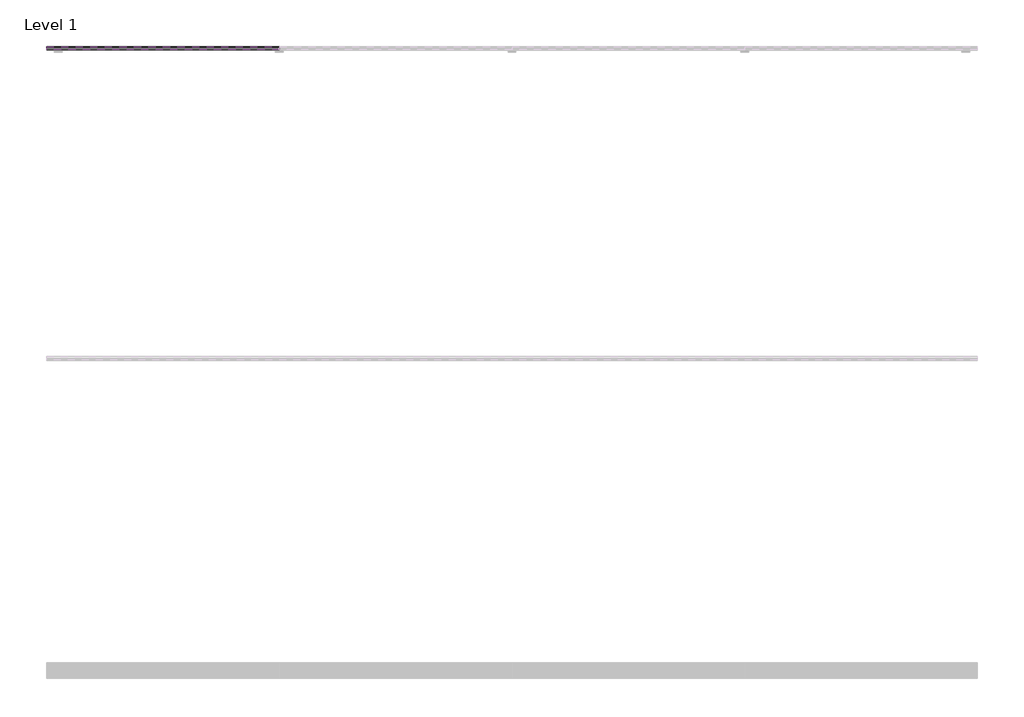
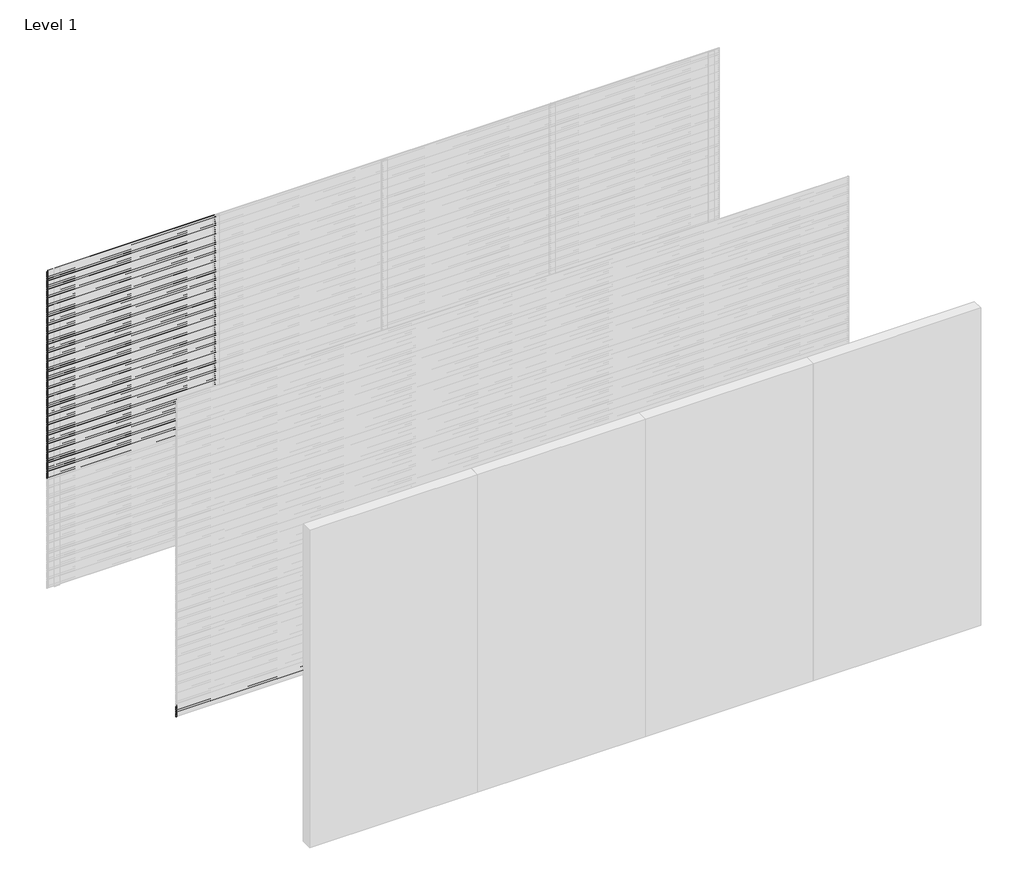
# One storey, part 26 of 31: 103 proxies.
"""IFC4 building model written with IfcOpenShell, lengths in millimetres."""

from ifc_helpers import new_model, si_unit, frame, origin, place, context, project, spatial, polyline, outline, extrude, element, save

model = new_model("IFC4")

# Units and contexts
model_context = context("Model", 3, world=origin())
ifc_project = project(units=[si_unit("LENGTHUNIT", "METRE", prefix="MILLI")], contexts=[model_context])

# Site, building, storey
site = spatial("IfcSite", under=ifc_project)
building = spatial("IfcBuilding", under=site)
storey = spatial("IfcBuildingStorey", under=building, Name="Level 1", Elevation=0.0)

# Proxies
placement = place(None, origin())
element("IfcBuildingElementProxy", 1, Name="Wall Sweeps", at=placement, inside=storey, context=model_context, shape_type="SweptSolid", body=[
    extrude(outline(polyline([(5.0, 3000.0), (5.0, 2988.942893), (24.0, 2973.0), (24.0, 2960.0), (3.0, 2977.6210923), (3.0, 3000.0), (5.0, 3000.0)])), frame((0.0, 0.0, 0.0), z_axis=(1.0, 0.0, 0.0), x_axis=(0.0, 1.0, 0.0)), (0.0, 0.0, 1.0), 1500.0),
])
element("IfcBuildingElementProxy", 2, Name="Wall Sweeps", at=placement, inside=storey, context=model_context, shape_type="SweptSolid", body=[
    extrude(outline(polyline([(5.0, 2980.0), (5.0, 2968.942893), (24.0, 2953.0), (24.0, 2940.0), (3.0, 2957.6210923), (3.0, 2980.0), (5.0, 2980.0)])), frame((0.0, 0.0, 0.0), z_axis=(1.0, 0.0, 0.0), x_axis=(0.0, 1.0, 0.0)), (0.0, 0.0, 1.0), 1500.0),
])
element("IfcBuildingElementProxy", 3, Name="Wall Sweeps", at=placement, inside=storey, context=model_context, shape_type="SweptSolid", body=[
    extrude(outline(polyline([(5.0, 2960.0), (5.0, 2948.942893), (24.0, 2933.0), (24.0, 2920.0), (3.0, 2937.6210923), (3.0, 2960.0), (5.0, 2960.0)])), frame((0.0, 0.0, 0.0), z_axis=(1.0, 0.0, 0.0), x_axis=(0.0, 1.0, 0.0)), (0.0, 0.0, 1.0), 1500.0),
])
element("IfcBuildingElementProxy", 4, Name="Wall Sweeps", at=placement, inside=storey, context=model_context, shape_type="SweptSolid", body=[
    extrude(outline(polyline([(5.0, 2940.0), (5.0, 2928.942893), (24.0, 2913.0), (24.0, 2900.0), (3.0, 2917.6210923), (3.0, 2940.0), (5.0, 2940.0)])), frame((0.0, 0.0, 0.0), z_axis=(1.0, 0.0, 0.0), x_axis=(0.0, 1.0, 0.0)), (0.0, 0.0, 1.0), 1500.0),
])
element("IfcBuildingElementProxy", 5, Name="Wall Sweeps", at=placement, inside=storey, context=model_context, shape_type="SweptSolid", body=[
    extrude(outline(polyline([(5.0, 2920.0), (5.0, 2908.942893), (24.0, 2893.0), (24.0, 2880.0), (3.0, 2897.6210923), (3.0, 2920.0), (5.0, 2920.0)])), frame((0.0, 0.0, 0.0), z_axis=(1.0, 0.0, 0.0), x_axis=(0.0, 1.0, 0.0)), (0.0, 0.0, 1.0), 1500.0),
])
element("IfcBuildingElementProxy", 6, Name="Wall Sweeps", at=placement, inside=storey, context=model_context, shape_type="SweptSolid", body=[
    extrude(outline(polyline([(5.0, 2900.0), (5.0, 2888.942893), (24.0, 2873.0), (24.0, 2860.0), (3.0, 2877.6210923), (3.0, 2900.0), (5.0, 2900.0)])), frame((0.0, 0.0, 0.0), z_axis=(1.0, 0.0, 0.0), x_axis=(0.0, 1.0, 0.0)), (0.0, 0.0, 1.0), 1500.0),
])
element("IfcBuildingElementProxy", 7, Name="Wall Sweeps", at=placement, inside=storey, context=model_context, shape_type="SweptSolid", body=[
    extrude(outline(polyline([(5.0, 2880.0), (5.0, 2868.942893), (24.0, 2853.0), (24.0, 2840.0), (3.0, 2857.6210923), (3.0, 2880.0), (5.0, 2880.0)])), frame((0.0, 0.0, 0.0), z_axis=(1.0, 0.0, 0.0), x_axis=(0.0, 1.0, 0.0)), (0.0, 0.0, 1.0), 1500.0),
])
element("IfcBuildingElementProxy", 8, Name="Wall Sweeps", at=placement, inside=storey, context=model_context, shape_type="SweptSolid", body=[
    extrude(outline(polyline([(5.0, 2860.0), (5.0, 2848.942893), (24.0, 2833.0), (24.0, 2820.0), (3.0, 2837.6210923), (3.0, 2860.0), (5.0, 2860.0)])), frame((0.0, 0.0, 0.0), z_axis=(1.0, 0.0, 0.0), x_axis=(0.0, 1.0, 0.0)), (0.0, 0.0, 1.0), 1500.0),
])
element("IfcBuildingElementProxy", 9, Name="Wall Sweeps", at=placement, inside=storey, context=model_context, shape_type="SweptSolid", body=[
    extrude(outline(polyline([(5.0, 2840.0), (5.0, 2828.942893), (24.0, 2813.0), (24.0, 2800.0), (3.0, 2817.6210923), (3.0, 2840.0), (5.0, 2840.0)])), frame((0.0, 0.0, 0.0), z_axis=(1.0, 0.0, 0.0), x_axis=(0.0, 1.0, 0.0)), (0.0, 0.0, 1.0), 1500.0),
])
element("IfcBuildingElementProxy", 10, Name="Wall Sweeps", at=placement, inside=storey, context=model_context, shape_type="SweptSolid", body=[
    extrude(outline(polyline([(5.0, 2820.0), (5.0, 2808.942893), (24.0, 2793.0), (24.0, 2780.0), (3.0, 2797.6210923), (3.0, 2820.0), (5.0, 2820.0)])), frame((0.0, 0.0, 0.0), z_axis=(1.0, 0.0, 0.0), x_axis=(0.0, 1.0, 0.0)), (0.0, 0.0, 1.0), 1500.0),
])
element("IfcBuildingElementProxy", 11, Name="Wall Sweeps", at=placement, inside=storey, context=model_context, shape_type="SweptSolid", body=[
    extrude(outline(polyline([(5.0, 2800.0), (5.0, 2788.942893), (24.0, 2773.0), (24.0, 2760.0), (3.0, 2777.6210923), (3.0, 2800.0), (5.0, 2800.0)])), frame((0.0, 0.0, 0.0), z_axis=(1.0, 0.0, 0.0), x_axis=(0.0, 1.0, 0.0)), (0.0, 0.0, 1.0), 1500.0),
])
element("IfcBuildingElementProxy", 12, Name="Wall Sweeps", at=placement, inside=storey, context=model_context, shape_type="SweptSolid", body=[
    extrude(outline(polyline([(5.0, 2780.0), (5.0, 2768.942893), (24.0, 2753.0), (24.0, 2740.0), (3.0, 2757.6210923), (3.0, 2780.0), (5.0, 2780.0)])), frame((0.0, 0.0, 0.0), z_axis=(1.0, 0.0, 0.0), x_axis=(0.0, 1.0, 0.0)), (0.0, 0.0, 1.0), 1500.0),
])
element("IfcBuildingElementProxy", 13, Name="Wall Sweeps", at=placement, inside=storey, context=model_context, shape_type="SweptSolid", body=[
    extrude(outline(polyline([(5.0, 2760.0), (5.0, 2748.942893), (24.0, 2733.0), (24.0, 2720.0), (3.0, 2737.6210923), (3.0, 2760.0), (5.0, 2760.0)])), frame((0.0, 0.0, 0.0), z_axis=(1.0, 0.0, 0.0), x_axis=(0.0, 1.0, 0.0)), (0.0, 0.0, 1.0), 1500.0),
])
element("IfcBuildingElementProxy", 14, Name="Wall Sweeps", at=placement, inside=storey, context=model_context, shape_type="SweptSolid", body=[
    extrude(outline(polyline([(5.0, 2740.0), (5.0, 2728.942893), (24.0, 2713.0), (24.0, 2700.0), (3.0, 2717.6210923), (3.0, 2740.0), (5.0, 2740.0)])), frame((0.0, 0.0, 0.0), z_axis=(1.0, 0.0, 0.0), x_axis=(0.0, 1.0, 0.0)), (0.0, 0.0, 1.0), 1500.0),
])
element("IfcBuildingElementProxy", 15, Name="Wall Sweeps", at=placement, inside=storey, context=model_context, shape_type="SweptSolid", body=[
    extrude(outline(polyline([(5.0, 2720.0), (5.0, 2708.942893), (24.0, 2693.0), (24.0, 2680.0), (3.0, 2697.6210923), (3.0, 2720.0), (5.0, 2720.0)])), frame((0.0, 0.0, 0.0), z_axis=(1.0, 0.0, 0.0), x_axis=(0.0, 1.0, 0.0)), (0.0, 0.0, 1.0), 1500.0),
])
element("IfcBuildingElementProxy", 16, Name="Wall Sweeps", at=placement, inside=storey, context=model_context, shape_type="SweptSolid", body=[
    extrude(outline(polyline([(5.0, 2700.0), (5.0, 2688.942893), (24.0, 2673.0), (24.0, 2660.0), (3.0, 2677.6210923), (3.0, 2700.0), (5.0, 2700.0)])), frame((0.0, 0.0, 0.0), z_axis=(1.0, 0.0, 0.0), x_axis=(0.0, 1.0, 0.0)), (0.0, 0.0, 1.0), 1500.0),
])
element("IfcBuildingElementProxy", 17, Name="Wall Sweeps", at=placement, inside=storey, context=model_context, shape_type="SweptSolid", body=[
    extrude(outline(polyline([(5.0, 2680.0), (5.0, 2668.942893), (24.0, 2653.0), (24.0, 2640.0), (3.0, 2657.6210923), (3.0, 2680.0), (5.0, 2680.0)])), frame((0.0, 0.0, 0.0), z_axis=(1.0, 0.0, 0.0), x_axis=(0.0, 1.0, 0.0)), (0.0, 0.0, 1.0), 1500.0),
])
element("IfcBuildingElementProxy", 18, Name="Wall Sweeps", at=placement, inside=storey, context=model_context, shape_type="SweptSolid", body=[
    extrude(outline(polyline([(5.0, 2660.0), (5.0, 2648.942893), (24.0, 2633.0), (24.0, 2620.0), (3.0, 2637.6210923), (3.0, 2660.0), (5.0, 2660.0)])), frame((0.0, 0.0, 0.0), z_axis=(1.0, 0.0, 0.0), x_axis=(0.0, 1.0, 0.0)), (0.0, 0.0, 1.0), 1500.0),
])
element("IfcBuildingElementProxy", 19, Name="Wall Sweeps", at=placement, inside=storey, context=model_context, shape_type="SweptSolid", body=[
    extrude(outline(polyline([(5.0, 2640.0), (5.0, 2628.942893), (24.0, 2613.0), (24.0, 2600.0), (3.0, 2617.6210923), (3.0, 2640.0), (5.0, 2640.0)])), frame((0.0, 0.0, 0.0), z_axis=(1.0, 0.0, 0.0), x_axis=(0.0, 1.0, 0.0)), (0.0, 0.0, 1.0), 1500.0),
])
element("IfcBuildingElementProxy", 20, Name="Wall Sweeps", at=placement, inside=storey, context=model_context, shape_type="SweptSolid", body=[
    extrude(outline(polyline([(5.0, 2620.0), (5.0, 2608.942893), (24.0, 2593.0), (24.0, 2580.0), (3.0, 2597.6210923), (3.0, 2620.0), (5.0, 2620.0)])), frame((0.0, 0.0, 0.0), z_axis=(1.0, 0.0, 0.0), x_axis=(0.0, 1.0, 0.0)), (0.0, 0.0, 1.0), 1500.0),
])
element("IfcBuildingElementProxy", 21, Name="Wall Sweeps", at=placement, inside=storey, context=model_context, shape_type="SweptSolid", body=[
    extrude(outline(polyline([(5.0, 2600.0), (5.0, 2588.942893), (24.0, 2573.0), (24.0, 2560.0), (3.0, 2577.6210923), (3.0, 2600.0), (5.0, 2600.0)])), frame((0.0, 0.0, 0.0), z_axis=(1.0, 0.0, 0.0), x_axis=(0.0, 1.0, 0.0)), (0.0, 0.0, 1.0), 1500.0),
])
element("IfcBuildingElementProxy", 22, Name="Wall Sweeps", at=placement, inside=storey, context=model_context, shape_type="SweptSolid", body=[
    extrude(outline(polyline([(5.0, 2580.0), (5.0, 2568.942893), (24.0, 2553.0), (24.0, 2540.0), (3.0, 2557.6210923), (3.0, 2580.0), (5.0, 2580.0)])), frame((0.0, 0.0, 0.0), z_axis=(1.0, 0.0, 0.0), x_axis=(0.0, 1.0, 0.0)), (0.0, 0.0, 1.0), 1500.0),
])
element("IfcBuildingElementProxy", 23, Name="Wall Sweeps", at=placement, inside=storey, context=model_context, shape_type="SweptSolid", body=[
    extrude(outline(polyline([(5.0, 2560.0), (5.0, 2548.942893), (24.0, 2533.0), (24.0, 2520.0), (3.0, 2537.6210923), (3.0, 2560.0), (5.0, 2560.0)])), frame((0.0, 0.0, 0.0), z_axis=(1.0, 0.0, 0.0), x_axis=(0.0, 1.0, 0.0)), (0.0, 0.0, 1.0), 1500.0),
])
element("IfcBuildingElementProxy", 24, Name="Wall Sweeps", at=placement, inside=storey, context=model_context, shape_type="SweptSolid", body=[
    extrude(outline(polyline([(5.0, 2540.0), (5.0, 2528.942893), (24.0, 2513.0), (24.0, 2500.0), (3.0, 2517.6210923), (3.0, 2540.0), (5.0, 2540.0)])), frame((0.0, 0.0, 0.0), z_axis=(1.0, 0.0, 0.0), x_axis=(0.0, 1.0, 0.0)), (0.0, 0.0, 1.0), 1500.0),
])
element("IfcBuildingElementProxy", 25, Name="Wall Sweeps", at=placement, inside=storey, context=model_context, shape_type="SweptSolid", body=[
    extrude(outline(polyline([(5.0, 2520.0), (5.0, 2508.942893), (24.0, 2493.0), (24.0, 2480.0), (3.0, 2497.6210923), (3.0, 2520.0), (5.0, 2520.0)])), frame((0.0, 0.0, 0.0), z_axis=(1.0, 0.0, 0.0), x_axis=(0.0, 1.0, 0.0)), (0.0, 0.0, 1.0), 1500.0),
])
element("IfcBuildingElementProxy", 26, Name="Wall Sweeps", at=placement, inside=storey, context=model_context, shape_type="SweptSolid", body=[
    extrude(outline(polyline([(5.0, 2500.0), (5.0, 2488.942893), (24.0, 2473.0), (24.0, 2460.0), (3.0, 2477.6210923), (3.0, 2500.0), (5.0, 2500.0)])), frame((0.0, 0.0, 0.0), z_axis=(1.0, 0.0, 0.0), x_axis=(0.0, 1.0, 0.0)), (0.0, 0.0, 1.0), 1500.0),
])
element("IfcBuildingElementProxy", 27, Name="Wall Sweeps", at=placement, inside=storey, context=model_context, shape_type="SweptSolid", body=[
    extrude(outline(polyline([(5.0, 2480.0), (5.0, 2468.942893), (24.0, 2453.0), (24.0, 2440.0), (3.0, 2457.6210923), (3.0, 2480.0), (5.0, 2480.0)])), frame((0.0, 0.0, 0.0), z_axis=(1.0, 0.0, 0.0), x_axis=(0.0, 1.0, 0.0)), (0.0, 0.0, 1.0), 1500.0),
])
element("IfcBuildingElementProxy", 28, Name="Wall Sweeps", at=placement, inside=storey, context=model_context, shape_type="SweptSolid", body=[
    extrude(outline(polyline([(5.0, 2460.0), (5.0, 2448.942893), (24.0, 2433.0), (24.0, 2420.0), (3.0, 2437.6210923), (3.0, 2460.0), (5.0, 2460.0)])), frame((0.0, 0.0, 0.0), z_axis=(1.0, 0.0, 0.0), x_axis=(0.0, 1.0, 0.0)), (0.0, 0.0, 1.0), 1500.0),
])
element("IfcBuildingElementProxy", 29, Name="Wall Sweeps", at=placement, inside=storey, context=model_context, shape_type="SweptSolid", body=[
    extrude(outline(polyline([(5.0, 2440.0), (5.0, 2428.942893), (24.0, 2413.0), (24.0, 2400.0), (3.0, 2417.6210923), (3.0, 2440.0), (5.0, 2440.0)])), frame((0.0, 0.0, 0.0), z_axis=(1.0, 0.0, 0.0), x_axis=(0.0, 1.0, 0.0)), (0.0, 0.0, 1.0), 1500.0),
])
element("IfcBuildingElementProxy", 30, Name="Wall Sweeps", at=placement, inside=storey, context=model_context, shape_type="SweptSolid", body=[
    extrude(outline(polyline([(5.0, 2420.0), (5.0, 2408.942893), (24.0, 2393.0), (24.0, 2380.0), (3.0, 2397.6210923), (3.0, 2420.0), (5.0, 2420.0)])), frame((0.0, 0.0, 0.0), z_axis=(1.0, 0.0, 0.0), x_axis=(0.0, 1.0, 0.0)), (0.0, 0.0, 1.0), 1500.0),
])
element("IfcBuildingElementProxy", 31, Name="Wall Sweeps", at=placement, inside=storey, context=model_context, shape_type="SweptSolid", body=[
    extrude(outline(polyline([(5.0, 2400.0), (5.0, 2388.942893), (24.0, 2373.0), (24.0, 2360.0), (3.0, 2377.6210923), (3.0, 2400.0), (5.0, 2400.0)])), frame((0.0, 0.0, 0.0), z_axis=(1.0, 0.0, 0.0), x_axis=(0.0, 1.0, 0.0)), (0.0, 0.0, 1.0), 1500.0),
])
element("IfcBuildingElementProxy", 32, Name="Wall Sweeps", at=placement, inside=storey, context=model_context, shape_type="SweptSolid", body=[
    extrude(outline(polyline([(5.0, 2380.0), (5.0, 2368.942893), (24.0, 2353.0), (24.0, 2340.0), (3.0, 2357.6210923), (3.0, 2380.0), (5.0, 2380.0)])), frame((0.0, 0.0, 0.0), z_axis=(1.0, 0.0, 0.0), x_axis=(0.0, 1.0, 0.0)), (0.0, 0.0, 1.0), 1500.0),
])
element("IfcBuildingElementProxy", 33, Name="Wall Sweeps", at=placement, inside=storey, context=model_context, shape_type="SweptSolid", body=[
    extrude(outline(polyline([(5.0, 2360.0), (5.0, 2348.942893), (24.0, 2333.0), (24.0, 2320.0), (3.0, 2337.6210923), (3.0, 2360.0), (5.0, 2360.0)])), frame((0.0, 0.0, 0.0), z_axis=(1.0, 0.0, 0.0), x_axis=(0.0, 1.0, 0.0)), (0.0, 0.0, 1.0), 1500.0),
])
element("IfcBuildingElementProxy", 34, Name="Wall Sweeps", at=placement, inside=storey, context=model_context, shape_type="SweptSolid", body=[
    extrude(outline(polyline([(5.0, 2340.0), (5.0, 2328.942893), (24.0, 2313.0), (24.0, 2300.0), (3.0, 2317.6210923), (3.0, 2340.0), (5.0, 2340.0)])), frame((0.0, 0.0, 0.0), z_axis=(1.0, 0.0, 0.0), x_axis=(0.0, 1.0, 0.0)), (0.0, 0.0, 1.0), 1500.0),
])
element("IfcBuildingElementProxy", 35, Name="Wall Sweeps", at=placement, inside=storey, context=model_context, shape_type="SweptSolid", body=[
    extrude(outline(polyline([(5.0, 2320.0), (5.0, 2308.942893), (24.0, 2293.0), (24.0, 2280.0), (3.0, 2297.6210923), (3.0, 2320.0), (5.0, 2320.0)])), frame((0.0, 0.0, 0.0), z_axis=(1.0, 0.0, 0.0), x_axis=(0.0, 1.0, 0.0)), (0.0, 0.0, 1.0), 1500.0),
])
element("IfcBuildingElementProxy", 36, Name="Wall Sweeps", at=placement, inside=storey, context=model_context, shape_type="SweptSolid", body=[
    extrude(outline(polyline([(5.0, 2300.0), (5.0, 2288.942893), (24.0, 2273.0), (24.0, 2260.0), (3.0, 2277.6210923), (3.0, 2300.0), (5.0, 2300.0)])), frame((0.0, 0.0, 0.0), z_axis=(1.0, 0.0, 0.0), x_axis=(0.0, 1.0, 0.0)), (0.0, 0.0, 1.0), 1500.0),
])
element("IfcBuildingElementProxy", 37, Name="Wall Sweeps", at=placement, inside=storey, context=model_context, shape_type="SweptSolid", body=[
    extrude(outline(polyline([(5.0, 2280.0), (5.0, 2268.942893), (24.0, 2253.0), (24.0, 2240.0), (3.0, 2257.6210923), (3.0, 2280.0), (5.0, 2280.0)])), frame((0.0, 0.0, 0.0), z_axis=(1.0, 0.0, 0.0), x_axis=(0.0, 1.0, 0.0)), (0.0, 0.0, 1.0), 1500.0),
])
element("IfcBuildingElementProxy", 38, Name="Wall Sweeps", at=placement, inside=storey, context=model_context, shape_type="SweptSolid", body=[
    extrude(outline(polyline([(5.0, 2260.0), (5.0, 2248.942893), (24.0, 2233.0), (24.0, 2220.0), (3.0, 2237.6210923), (3.0, 2260.0), (5.0, 2260.0)])), frame((0.0, 0.0, 0.0), z_axis=(1.0, 0.0, 0.0), x_axis=(0.0, 1.0, 0.0)), (0.0, 0.0, 1.0), 1500.0),
])
element("IfcBuildingElementProxy", 39, Name="Wall Sweeps", at=placement, inside=storey, context=model_context, shape_type="SweptSolid", body=[
    extrude(outline(polyline([(5.0, 2240.0), (5.0, 2228.942893), (24.0, 2213.0), (24.0, 2200.0), (3.0, 2217.6210923), (3.0, 2240.0), (5.0, 2240.0)])), frame((0.0, 0.0, 0.0), z_axis=(1.0, 0.0, 0.0), x_axis=(0.0, 1.0, 0.0)), (0.0, 0.0, 1.0), 1500.0),
])
element("IfcBuildingElementProxy", 40, Name="Wall Sweeps", at=placement, inside=storey, context=model_context, shape_type="SweptSolid", body=[
    extrude(outline(polyline([(5.0, 2220.0), (5.0, 2208.942893), (24.0, 2193.0), (24.0, 2180.0), (3.0, 2197.6210923), (3.0, 2220.0), (5.0, 2220.0)])), frame((0.0, 0.0, 0.0), z_axis=(1.0, 0.0, 0.0), x_axis=(0.0, 1.0, 0.0)), (0.0, 0.0, 1.0), 1500.0),
])
element("IfcBuildingElementProxy", 41, Name="Wall Sweeps", at=placement, inside=storey, context=model_context, shape_type="SweptSolid", body=[
    extrude(outline(polyline([(5.0, 2200.0), (5.0, 2188.942893), (24.0, 2173.0), (24.0, 2160.0), (3.0, 2177.6210923), (3.0, 2200.0), (5.0, 2200.0)])), frame((0.0, 0.0, 0.0), z_axis=(1.0, 0.0, 0.0), x_axis=(0.0, 1.0, 0.0)), (0.0, 0.0, 1.0), 1500.0),
])
element("IfcBuildingElementProxy", 42, Name="Wall Sweeps", at=placement, inside=storey, context=model_context, shape_type="SweptSolid", body=[
    extrude(outline(polyline([(5.0, 2180.0), (5.0, 2168.942893), (24.0, 2153.0), (24.0, 2140.0), (3.0, 2157.6210923), (3.0, 2180.0), (5.0, 2180.0)])), frame((0.0, 0.0, 0.0), z_axis=(1.0, 0.0, 0.0), x_axis=(0.0, 1.0, 0.0)), (0.0, 0.0, 1.0), 1500.0),
])
element("IfcBuildingElementProxy", 43, Name="Wall Sweeps", at=placement, inside=storey, context=model_context, shape_type="SweptSolid", body=[
    extrude(outline(polyline([(5.0, 2160.0), (5.0, 2148.942893), (24.0, 2133.0), (24.0, 2120.0), (3.0, 2137.6210923), (3.0, 2160.0), (5.0, 2160.0)])), frame((0.0, 0.0, 0.0), z_axis=(1.0, 0.0, 0.0), x_axis=(0.0, 1.0, 0.0)), (0.0, 0.0, 1.0), 1500.0),
])
element("IfcBuildingElementProxy", 44, Name="Wall Sweeps", at=placement, inside=storey, context=model_context, shape_type="SweptSolid", body=[
    extrude(outline(polyline([(5.0, 2140.0), (5.0, 2128.942893), (24.0, 2113.0), (24.0, 2100.0), (3.0, 2117.6210923), (3.0, 2140.0), (5.0, 2140.0)])), frame((0.0, 0.0, 0.0), z_axis=(1.0, 0.0, 0.0), x_axis=(0.0, 1.0, 0.0)), (0.0, 0.0, 1.0), 1500.0),
])
element("IfcBuildingElementProxy", 45, Name="Wall Sweeps", at=placement, inside=storey, context=model_context, shape_type="SweptSolid", body=[
    extrude(outline(polyline([(5.0, 2120.0), (5.0, 2108.942893), (24.0, 2093.0), (24.0, 2080.0), (3.0, 2097.6210923), (3.0, 2120.0), (5.0, 2120.0)])), frame((0.0, 0.0, 0.0), z_axis=(1.0, 0.0, 0.0), x_axis=(0.0, 1.0, 0.0)), (0.0, 0.0, 1.0), 1500.0),
])
element("IfcBuildingElementProxy", 46, Name="Wall Sweeps", at=placement, inside=storey, context=model_context, shape_type="SweptSolid", body=[
    extrude(outline(polyline([(5.0, 2100.0), (5.0, 2088.942893), (24.0, 2073.0), (24.0, 2060.0), (3.0, 2077.6210923), (3.0, 2100.0), (5.0, 2100.0)])), frame((0.0, 0.0, 0.0), z_axis=(1.0, 0.0, 0.0), x_axis=(0.0, 1.0, 0.0)), (0.0, 0.0, 1.0), 1500.0),
])
element("IfcBuildingElementProxy", 47, Name="Wall Sweeps", at=placement, inside=storey, context=model_context, shape_type="SweptSolid", body=[
    extrude(outline(polyline([(5.0, 2080.0), (5.0, 2068.942893), (24.0, 2053.0), (24.0, 2040.0), (3.0, 2057.6210923), (3.0, 2080.0), (5.0, 2080.0)])), frame((0.0, 0.0, 0.0), z_axis=(1.0, 0.0, 0.0), x_axis=(0.0, 1.0, 0.0)), (0.0, 0.0, 1.0), 1500.0),
])
element("IfcBuildingElementProxy", 48, Name="Wall Sweeps", at=placement, inside=storey, context=model_context, shape_type="SweptSolid", body=[
    extrude(outline(polyline([(5.0, 2060.0), (5.0, 2048.942893), (24.0, 2033.0), (24.0, 2020.0), (3.0, 2037.6210923), (3.0, 2060.0), (5.0, 2060.0)])), frame((0.0, 0.0, 0.0), z_axis=(1.0, 0.0, 0.0), x_axis=(0.0, 1.0, 0.0)), (0.0, 0.0, 1.0), 1500.0),
])
element("IfcBuildingElementProxy", 49, Name="Wall Sweeps", at=placement, inside=storey, context=model_context, shape_type="SweptSolid", body=[
    extrude(outline(polyline([(5.0, 2040.0), (5.0, 2028.942893), (24.0, 2013.0), (24.0, 2000.0), (3.0, 2017.6210923), (3.0, 2040.0), (5.0, 2040.0)])), frame((0.0, 0.0, 0.0), z_axis=(1.0, 0.0, 0.0), x_axis=(0.0, 1.0, 0.0)), (0.0, 0.0, 1.0), 1500.0),
])
element("IfcBuildingElementProxy", 50, Name="Wall Sweeps", at=placement, inside=storey, context=model_context, shape_type="SweptSolid", body=[
    extrude(outline(polyline([(5.0, 2020.0), (5.0, 2008.942893), (24.0, 1993.0), (24.0, 1980.0), (3.0, 1997.6210923), (3.0, 2020.0), (5.0, 2020.0)])), frame((0.0, 0.0, 0.0), z_axis=(1.0, 0.0, 0.0), x_axis=(0.0, 1.0, 0.0)), (0.0, 0.0, 1.0), 1500.0),
])
element("IfcBuildingElementProxy", 51, Name="Wall Sweeps", at=placement, inside=storey, context=model_context, shape_type="SweptSolid", body=[
    extrude(outline(polyline([(5.0, 2000.0), (5.0, 1988.942893), (24.0, 1973.0), (24.0, 1960.0), (3.0, 1977.6210923), (3.0, 2000.0), (5.0, 2000.0)])), frame((0.0, 0.0, 0.0), z_axis=(1.0, 0.0, 0.0), x_axis=(0.0, 1.0, 0.0)), (0.0, 0.0, 1.0), 1500.0),
])
element("IfcBuildingElementProxy", 52, Name="Wall Sweeps", at=placement, inside=storey, context=model_context, shape_type="SweptSolid", body=[
    extrude(outline(polyline([(5.0, 1980.0), (5.0, 1968.942893), (24.0, 1953.0), (24.0, 1940.0), (3.0, 1957.6210923), (3.0, 1980.0), (5.0, 1980.0)])), frame((0.0, 0.0, 0.0), z_axis=(1.0, 0.0, 0.0), x_axis=(0.0, 1.0, 0.0)), (0.0, 0.0, 1.0), 1500.0),
])
element("IfcBuildingElementProxy", 53, Name="Wall Sweeps", at=placement, inside=storey, context=model_context, shape_type="SweptSolid", body=[
    extrude(outline(polyline([(5.0, 1960.0), (5.0, 1948.942893), (24.0, 1933.0), (24.0, 1920.0), (3.0, 1937.6210923), (3.0, 1960.0), (5.0, 1960.0)])), frame((0.0, 0.0, 0.0), z_axis=(1.0, 0.0, 0.0), x_axis=(0.0, 1.0, 0.0)), (0.0, 0.0, 1.0), 1500.0),
])
element("IfcBuildingElementProxy", 54, Name="Wall Sweeps", at=placement, inside=storey, context=model_context, shape_type="SweptSolid", body=[
    extrude(outline(polyline([(5.0, 1940.0), (5.0, 1928.942893), (24.0, 1913.0), (24.0, 1900.0), (3.0, 1917.6210923), (3.0, 1940.0), (5.0, 1940.0)])), frame((0.0, 0.0, 0.0), z_axis=(1.0, 0.0, 0.0), x_axis=(0.0, 1.0, 0.0)), (0.0, 0.0, 1.0), 1500.0),
])
element("IfcBuildingElementProxy", 55, Name="Wall Sweeps", at=placement, inside=storey, context=model_context, shape_type="SweptSolid", body=[
    extrude(outline(polyline([(5.0, 1920.0), (5.0, 1908.942893), (24.0, 1893.0), (24.0, 1880.0), (3.0, 1897.6210923), (3.0, 1920.0), (5.0, 1920.0)])), frame((0.0, 0.0, 0.0), z_axis=(1.0, 0.0, 0.0), x_axis=(0.0, 1.0, 0.0)), (0.0, 0.0, 1.0), 1500.0),
])
element("IfcBuildingElementProxy", 56, Name="Wall Sweeps", at=placement, inside=storey, context=model_context, shape_type="SweptSolid", body=[
    extrude(outline(polyline([(5.0, 1900.0), (5.0, 1888.942893), (24.0, 1873.0), (24.0, 1860.0), (3.0, 1877.6210923), (3.0, 1900.0), (5.0, 1900.0)])), frame((0.0, 0.0, 0.0), z_axis=(1.0, 0.0, 0.0), x_axis=(0.0, 1.0, 0.0)), (0.0, 0.0, 1.0), 1500.0),
])
element("IfcBuildingElementProxy", 57, Name="Wall Sweeps", at=placement, inside=storey, context=model_context, shape_type="SweptSolid", body=[
    extrude(outline(polyline([(5.0, 1880.0), (5.0, 1868.942893), (24.0, 1853.0), (24.0, 1840.0), (3.0, 1857.6210923), (3.0, 1880.0), (5.0, 1880.0)])), frame((0.0, 0.0, 0.0), z_axis=(1.0, 0.0, 0.0), x_axis=(0.0, 1.0, 0.0)), (0.0, 0.0, 1.0), 1500.0),
])
element("IfcBuildingElementProxy", 58, Name="Wall Sweeps", at=placement, inside=storey, context=model_context, shape_type="SweptSolid", body=[
    extrude(outline(polyline([(5.0, 1860.0), (5.0, 1848.942893), (24.0, 1833.0), (24.0, 1820.0), (3.0, 1837.6210923), (3.0, 1860.0), (5.0, 1860.0)])), frame((0.0, 0.0, 0.0), z_axis=(1.0, 0.0, 0.0), x_axis=(0.0, 1.0, 0.0)), (0.0, 0.0, 1.0), 1500.0),
])
element("IfcBuildingElementProxy", 59, Name="Wall Sweeps", at=placement, inside=storey, context=model_context, shape_type="SweptSolid", body=[
    extrude(outline(polyline([(5.0, 1840.0), (5.0, 1828.942893), (24.0, 1813.0), (24.0, 1800.0), (3.0, 1817.6210923), (3.0, 1840.0), (5.0, 1840.0)])), frame((0.0, 0.0, 0.0), z_axis=(1.0, 0.0, 0.0), x_axis=(0.0, 1.0, 0.0)), (0.0, 0.0, 1.0), 1500.0),
])
element("IfcBuildingElementProxy", 60, Name="Wall Sweeps", at=placement, inside=storey, context=model_context, shape_type="SweptSolid", body=[
    extrude(outline(polyline([(5.0, 1820.0), (5.0, 1808.942893), (24.0, 1793.0), (24.0, 1780.0), (3.0, 1797.6210923), (3.0, 1820.0), (5.0, 1820.0)])), frame((0.0, 0.0, 0.0), z_axis=(1.0, 0.0, 0.0), x_axis=(0.0, 1.0, 0.0)), (0.0, 0.0, 1.0), 1500.0),
])
element("IfcBuildingElementProxy", 61, Name="Wall Sweeps", at=placement, inside=storey, context=model_context, shape_type="SweptSolid", body=[
    extrude(outline(polyline([(5.0, 1800.0), (5.0, 1788.942893), (24.0, 1773.0), (24.0, 1760.0), (3.0, 1777.6210923), (3.0, 1800.0), (5.0, 1800.0)])), frame((0.0, 0.0, 0.0), z_axis=(1.0, 0.0, 0.0), x_axis=(0.0, 1.0, 0.0)), (0.0, 0.0, 1.0), 1500.0),
])
element("IfcBuildingElementProxy", 62, Name="Wall Sweeps", at=placement, inside=storey, context=model_context, shape_type="SweptSolid", body=[
    extrude(outline(polyline([(5.0, 1780.0), (5.0, 1768.942893), (24.0, 1753.0), (24.0, 1740.0), (3.0, 1757.6210923), (3.0, 1780.0), (5.0, 1780.0)])), frame((0.0, 0.0, 0.0), z_axis=(1.0, 0.0, 0.0), x_axis=(0.0, 1.0, 0.0)), (0.0, 0.0, 1.0), 1500.0),
])
element("IfcBuildingElementProxy", 63, Name="Wall Sweeps", at=placement, inside=storey, context=model_context, shape_type="SweptSolid", body=[
    extrude(outline(polyline([(5.0, 1760.0), (5.0, 1748.942893), (24.0, 1733.0), (24.0, 1720.0), (3.0, 1737.6210923), (3.0, 1760.0), (5.0, 1760.0)])), frame((0.0, 0.0, 0.0), z_axis=(1.0, 0.0, 0.0), x_axis=(0.0, 1.0, 0.0)), (0.0, 0.0, 1.0), 1500.0),
])
element("IfcBuildingElementProxy", 64, Name="Wall Sweeps", at=placement, inside=storey, context=model_context, shape_type="SweptSolid", body=[
    extrude(outline(polyline([(5.0, 1740.0), (5.0, 1728.942893), (24.0, 1713.0), (24.0, 1700.0), (3.0, 1717.6210923), (3.0, 1740.0), (5.0, 1740.0)])), frame((0.0, 0.0, 0.0), z_axis=(1.0, 0.0, 0.0), x_axis=(0.0, 1.0, 0.0)), (0.0, 0.0, 1.0), 1500.0),
])
element("IfcBuildingElementProxy", 65, Name="Wall Sweeps", at=placement, inside=storey, context=model_context, shape_type="SweptSolid", body=[
    extrude(outline(polyline([(5.0, 1720.0), (5.0, 1708.942893), (24.0, 1693.0), (24.0, 1680.0), (3.0, 1697.6210923), (3.0, 1720.0), (5.0, 1720.0)])), frame((0.0, 0.0, 0.0), z_axis=(1.0, 0.0, 0.0), x_axis=(0.0, 1.0, 0.0)), (0.0, 0.0, 1.0), 1500.0),
])
element("IfcBuildingElementProxy", 66, Name="Wall Sweeps", at=placement, inside=storey, context=model_context, shape_type="SweptSolid", body=[
    extrude(outline(polyline([(5.0, 1700.0), (5.0, 1688.942893), (24.0, 1673.0), (24.0, 1660.0), (3.0, 1677.6210923), (3.0, 1700.0), (5.0, 1700.0)])), frame((0.0, 0.0, 0.0), z_axis=(1.0, 0.0, 0.0), x_axis=(0.0, 1.0, 0.0)), (0.0, 0.0, 1.0), 1500.0),
])
element("IfcBuildingElementProxy", 67, Name="Wall Sweeps", at=placement, inside=storey, context=model_context, shape_type="SweptSolid", body=[
    extrude(outline(polyline([(5.0, 1680.0), (5.0, 1668.942893), (24.0, 1653.0), (24.0, 1640.0), (3.0, 1657.6210923), (3.0, 1680.0), (5.0, 1680.0)])), frame((0.0, 0.0, 0.0), z_axis=(1.0, 0.0, 0.0), x_axis=(0.0, 1.0, 0.0)), (0.0, 0.0, 1.0), 1500.0),
])
element("IfcBuildingElementProxy", 68, Name="Wall Sweeps", at=placement, inside=storey, context=model_context, shape_type="SweptSolid", body=[
    extrude(outline(polyline([(5.0, 1660.0), (5.0, 1648.942893), (24.0, 1633.0), (24.0, 1620.0), (3.0, 1637.6210923), (3.0, 1660.0), (5.0, 1660.0)])), frame((0.0, 0.0, 0.0), z_axis=(1.0, 0.0, 0.0), x_axis=(0.0, 1.0, 0.0)), (0.0, 0.0, 1.0), 1500.0),
])
element("IfcBuildingElementProxy", 69, Name="Wall Sweeps", at=placement, inside=storey, context=model_context, shape_type="SweptSolid", body=[
    extrude(outline(polyline([(5.0, 1640.0), (5.0, 1628.942893), (24.0, 1613.0), (24.0, 1600.0), (3.0, 1617.6210923), (3.0, 1640.0), (5.0, 1640.0)])), frame((0.0, 0.0, 0.0), z_axis=(1.0, 0.0, 0.0), x_axis=(0.0, 1.0, 0.0)), (0.0, 0.0, 1.0), 1500.0),
])
element("IfcBuildingElementProxy", 70, Name="Wall Sweeps", at=placement, inside=storey, context=model_context, shape_type="SweptSolid", body=[
    extrude(outline(polyline([(5.0, 1620.0), (5.0, 1608.942893), (24.0, 1593.0), (24.0, 1580.0), (3.0, 1597.6210923), (3.0, 1620.0), (5.0, 1620.0)])), frame((0.0, 0.0, 0.0), z_axis=(1.0, 0.0, 0.0), x_axis=(0.0, 1.0, 0.0)), (0.0, 0.0, 1.0), 1500.0),
])
element("IfcBuildingElementProxy", 71, Name="Wall Sweeps", at=placement, inside=storey, context=model_context, shape_type="SweptSolid", body=[
    extrude(outline(polyline([(5.0, 1600.0), (5.0, 1588.942893), (24.0, 1573.0), (24.0, 1560.0), (3.0, 1577.6210923), (3.0, 1600.0), (5.0, 1600.0)])), frame((0.0, 0.0, 0.0), z_axis=(1.0, 0.0, 0.0), x_axis=(0.0, 1.0, 0.0)), (0.0, 0.0, 1.0), 1500.0),
])
element("IfcBuildingElementProxy", 72, Name="Wall Sweeps", at=placement, inside=storey, context=model_context, shape_type="SweptSolid", body=[
    extrude(outline(polyline([(5.0, 1580.0), (5.0, 1568.942893), (24.0, 1553.0), (24.0, 1540.0), (3.0, 1557.6210923), (3.0, 1580.0), (5.0, 1580.0)])), frame((0.0, 0.0, 0.0), z_axis=(1.0, 0.0, 0.0), x_axis=(0.0, 1.0, 0.0)), (0.0, 0.0, 1.0), 1500.0),
])
element("IfcBuildingElementProxy", 73, Name="Wall Sweeps", at=placement, inside=storey, context=model_context, shape_type="SweptSolid", body=[
    extrude(outline(polyline([(5.0, 1560.0), (5.0, 1548.942893), (24.0, 1533.0), (24.0, 1520.0), (3.0, 1537.6210923), (3.0, 1560.0), (5.0, 1560.0)])), frame((0.0, 0.0, 0.0), z_axis=(1.0, 0.0, 0.0), x_axis=(0.0, 1.0, 0.0)), (0.0, 0.0, 1.0), 1500.0),
])
element("IfcBuildingElementProxy", 74, Name="Wall Sweeps", at=placement, inside=storey, context=model_context, shape_type="SweptSolid", body=[
    extrude(outline(polyline([(5.0, 1540.0), (5.0, 1528.942893), (24.0, 1513.0), (24.0, 1500.0), (3.0, 1517.6210923), (3.0, 1540.0), (5.0, 1540.0)])), frame((0.0, 0.0, 0.0), z_axis=(1.0, 0.0, 0.0), x_axis=(0.0, 1.0, 0.0)), (0.0, 0.0, 1.0), 1500.0),
])
element("IfcBuildingElementProxy", 75, Name="Wall Sweeps", at=placement, inside=storey, context=model_context, shape_type="SweptSolid", body=[
    extrude(outline(polyline([(5.0, 1520.0), (5.0, 1508.942893), (24.0, 1493.0), (24.0, 1480.0), (3.0, 1497.6210923), (3.0, 1520.0), (5.0, 1520.0)])), frame((0.0, 0.0, 0.0), z_axis=(1.0, 0.0, 0.0), x_axis=(0.0, 1.0, 0.0)), (0.0, 0.0, 1.0), 1500.0),
])
element("IfcBuildingElementProxy", 76, Name="Wall Sweeps", at=placement, inside=storey, context=model_context, shape_type="SweptSolid", body=[
    extrude(outline(polyline([(5.0, 1500.0), (5.0, 1488.942893), (24.0, 1473.0), (24.0, 1460.0), (3.0, 1477.6210923), (3.0, 1500.0), (5.0, 1500.0)])), frame((0.0, 0.0, 0.0), z_axis=(1.0, 0.0, 0.0), x_axis=(0.0, 1.0, 0.0)), (0.0, 0.0, 1.0), 1500.0),
])
element("IfcBuildingElementProxy", 77, Name="Wall Sweeps", at=placement, inside=storey, context=model_context, shape_type="SweptSolid", body=[
    extrude(outline(polyline([(5.0, 1480.0), (5.0, 1468.942893), (24.0, 1453.0), (24.0, 1440.0), (3.0, 1457.6210923), (3.0, 1480.0), (5.0, 1480.0)])), frame((0.0, 0.0, 0.0), z_axis=(1.0, 0.0, 0.0), x_axis=(0.0, 1.0, 0.0)), (0.0, 0.0, 1.0), 1500.0),
])
element("IfcBuildingElementProxy", 78, Name="Wall Sweeps", at=placement, inside=storey, context=model_context, shape_type="SweptSolid", body=[
    extrude(outline(polyline([(5.0, 1460.0), (5.0, 1448.942893), (24.0, 1433.0), (24.0, 1420.0), (3.0, 1437.6210923), (3.0, 1460.0), (5.0, 1460.0)])), frame((0.0, 0.0, 0.0), z_axis=(1.0, 0.0, 0.0), x_axis=(0.0, 1.0, 0.0)), (0.0, 0.0, 1.0), 1500.0),
])
element("IfcBuildingElementProxy", 79, Name="Wall Sweeps", at=placement, inside=storey, context=model_context, shape_type="SweptSolid", body=[
    extrude(outline(polyline([(5.0, 1440.0), (5.0, 1428.942893), (24.0, 1413.0), (24.0, 1400.0), (3.0, 1417.6210923), (3.0, 1440.0), (5.0, 1440.0)])), frame((0.0, 0.0, 0.0), z_axis=(1.0, 0.0, 0.0), x_axis=(0.0, 1.0, 0.0)), (0.0, 0.0, 1.0), 1500.0),
])
element("IfcBuildingElementProxy", 80, Name="Wall Sweeps", at=placement, inside=storey, context=model_context, shape_type="SweptSolid", body=[
    extrude(outline(polyline([(5.0, 1420.0), (5.0, 1408.942893), (24.0, 1393.0), (24.0, 1380.0), (3.0, 1397.6210923), (3.0, 1420.0), (5.0, 1420.0)])), frame((0.0, 0.0, 0.0), z_axis=(1.0, 0.0, 0.0), x_axis=(0.0, 1.0, 0.0)), (0.0, 0.0, 1.0), 1500.0),
])
element("IfcBuildingElementProxy", 81, Name="Wall Sweeps", at=placement, inside=storey, context=model_context, shape_type="SweptSolid", body=[
    extrude(outline(polyline([(5.0, 1400.0), (5.0, 1388.942893), (24.0, 1373.0), (24.0, 1360.0), (3.0, 1377.6210923), (3.0, 1400.0), (5.0, 1400.0)])), frame((0.0, 0.0, 0.0), z_axis=(1.0, 0.0, 0.0), x_axis=(0.0, 1.0, 0.0)), (0.0, 0.0, 1.0), 1500.0),
])
element("IfcBuildingElementProxy", 82, Name="Wall Sweeps", at=placement, inside=storey, context=model_context, shape_type="SweptSolid", body=[
    extrude(outline(polyline([(5.0, 1380.0), (5.0, 1368.942893), (24.0, 1353.0), (24.0, 1340.0), (3.0, 1357.6210923), (3.0, 1380.0), (5.0, 1380.0)])), frame((0.0, 0.0, 0.0), z_axis=(1.0, 0.0, 0.0), x_axis=(0.0, 1.0, 0.0)), (0.0, 0.0, 1.0), 1500.0),
])
element("IfcBuildingElementProxy", 83, Name="Wall Sweeps", at=placement, inside=storey, context=model_context, shape_type="SweptSolid", body=[
    extrude(outline(polyline([(5.0, 1360.0), (5.0, 1348.942893), (24.0, 1333.0), (24.0, 1320.0), (3.0, 1337.6210923), (3.0, 1360.0), (5.0, 1360.0)])), frame((0.0, 0.0, 0.0), z_axis=(1.0, 0.0, 0.0), x_axis=(0.0, 1.0, 0.0)), (0.0, 0.0, 1.0), 1500.0),
])
element("IfcBuildingElementProxy", 84, Name="Wall Sweeps", at=placement, inside=storey, context=model_context, shape_type="SweptSolid", body=[
    extrude(outline(polyline([(5.0, 1340.0), (5.0, 1328.942893), (24.0, 1313.0), (24.0, 1300.0), (3.0, 1317.6210923), (3.0, 1340.0), (5.0, 1340.0)])), frame((0.0, 0.0, 0.0), z_axis=(1.0, 0.0, 0.0), x_axis=(0.0, 1.0, 0.0)), (0.0, 0.0, 1.0), 1500.0),
])
element("IfcBuildingElementProxy", 85, Name="Wall Sweeps", at=placement, inside=storey, context=model_context, shape_type="SweptSolid", body=[
    extrude(outline(polyline([(5.0, 1320.0), (5.0, 1308.942893), (24.0, 1293.0), (24.0, 1280.0), (3.0, 1297.6210923), (3.0, 1320.0), (5.0, 1320.0)])), frame((0.0, 0.0, 0.0), z_axis=(1.0, 0.0, 0.0), x_axis=(0.0, 1.0, 0.0)), (0.0, 0.0, 1.0), 1500.0),
])
element("IfcBuildingElementProxy", 86, Name="Wall Sweeps", at=placement, inside=storey, context=model_context, shape_type="SweptSolid", body=[
    extrude(outline(polyline([(5.0, 1300.0), (5.0, 1288.942893), (24.0, 1273.0), (24.0, 1260.0), (3.0, 1277.6210923), (3.0, 1300.0), (5.0, 1300.0)])), frame((0.0, 0.0, 0.0), z_axis=(1.0, 0.0, 0.0), x_axis=(0.0, 1.0, 0.0)), (0.0, 0.0, 1.0), 1500.0),
])
element("IfcBuildingElementProxy", 87, Name="Wall Sweeps", at=placement, inside=storey, context=model_context, shape_type="SweptSolid", body=[
    extrude(outline(polyline([(5.0, 1280.0), (5.0, 1268.942893), (24.0, 1253.0), (24.0, 1240.0), (3.0, 1257.6210923), (3.0, 1280.0), (5.0, 1280.0)])), frame((0.0, 0.0, 0.0), z_axis=(1.0, 0.0, 0.0), x_axis=(0.0, 1.0, 0.0)), (0.0, 0.0, 1.0), 1500.0),
])
element("IfcBuildingElementProxy", 88, Name="Wall Sweeps", at=placement, inside=storey, context=model_context, shape_type="SweptSolid", body=[
    extrude(outline(polyline([(5.0, 1260.0), (5.0, 1248.942893), (24.0, 1233.0), (24.0, 1220.0), (3.0, 1237.6210923), (3.0, 1260.0), (5.0, 1260.0)])), frame((0.0, 0.0, 0.0), z_axis=(1.0, 0.0, 0.0), x_axis=(0.0, 1.0, 0.0)), (0.0, 0.0, 1.0), 1500.0),
])
element("IfcBuildingElementProxy", 89, Name="Wall Sweeps", at=placement, inside=storey, context=model_context, shape_type="SweptSolid", body=[
    extrude(outline(polyline([(5.0, 1240.0), (5.0, 1228.942893), (24.0, 1213.0), (24.0, 1200.0), (3.0, 1217.6210923), (3.0, 1240.0), (5.0, 1240.0)])), frame((0.0, 0.0, 0.0), z_axis=(1.0, 0.0, 0.0), x_axis=(0.0, 1.0, 0.0)), (0.0, 0.0, 1.0), 1500.0),
])
element("IfcBuildingElementProxy", 90, Name="Wall Sweeps", at=placement, inside=storey, context=model_context, shape_type="SweptSolid", body=[
    extrude(outline(polyline([(5.0, 1220.0), (5.0, 1208.942893), (24.0, 1193.0), (24.0, 1180.0), (3.0, 1197.6210923), (3.0, 1220.0), (5.0, 1220.0)])), frame((0.0, 0.0, 0.0), z_axis=(1.0, 0.0, 0.0), x_axis=(0.0, 1.0, 0.0)), (0.0, 0.0, 1.0), 1500.0),
])
element("IfcBuildingElementProxy", 91, Name="Wall Sweeps", at=placement, inside=storey, context=model_context, shape_type="SweptSolid", body=[
    extrude(outline(polyline([(5.0, 1200.0), (5.0, 1188.942893), (24.0, 1173.0), (24.0, 1160.0), (3.0, 1177.6210923), (3.0, 1200.0), (5.0, 1200.0)])), frame((0.0, 0.0, 0.0), z_axis=(1.0, 0.0, 0.0), x_axis=(0.0, 1.0, 0.0)), (0.0, 0.0, 1.0), 1500.0),
])
element("IfcBuildingElementProxy", 92, Name="Wall Sweeps", at=placement, inside=storey, context=model_context, shape_type="SweptSolid", body=[
    extrude(outline(polyline([(5.0, 1180.0), (5.0, 1168.942893), (24.0, 1153.0), (24.0, 1140.0), (3.0, 1157.6210923), (3.0, 1180.0), (5.0, 1180.0)])), frame((0.0, 0.0, 0.0), z_axis=(1.0, 0.0, 0.0), x_axis=(0.0, 1.0, 0.0)), (0.0, 0.0, 1.0), 1500.0),
])
element("IfcBuildingElementProxy", 93, Name="Wall Sweeps", at=placement, inside=storey, context=model_context, shape_type="SweptSolid", body=[
    extrude(outline(polyline([(5.0, 1160.0), (5.0, 1148.942893), (24.0, 1133.0), (24.0, 1120.0), (3.0, 1137.6210923), (3.0, 1160.0), (5.0, 1160.0)])), frame((0.0, 0.0, 0.0), z_axis=(1.0, 0.0, 0.0), x_axis=(0.0, 1.0, 0.0)), (0.0, 0.0, 1.0), 1500.0),
])
element("IfcBuildingElementProxy", 94, Name="Wall Sweeps", at=placement, inside=storey, context=model_context, shape_type="SweptSolid", body=[
    extrude(outline(polyline([(5.0, 1140.0), (5.0, 1128.942893), (24.0, 1113.0), (24.0, 1100.0), (3.0, 1117.6210923), (3.0, 1140.0), (5.0, 1140.0)])), frame((0.0, 0.0, 0.0), z_axis=(1.0, 0.0, 0.0), x_axis=(0.0, 1.0, 0.0)), (0.0, 0.0, 1.0), 1500.0),
])
element("IfcBuildingElementProxy", 95, Name="Wall Sweeps", at=placement, inside=storey, context=model_context, shape_type="SweptSolid", body=[
    extrude(outline(polyline([(5.0, 1120.0), (5.0, 1108.942893), (24.0, 1093.0), (24.0, 1080.0), (3.0, 1097.6210923), (3.0, 1120.0), (5.0, 1120.0)])), frame((0.0, 0.0, 0.0), z_axis=(1.0, 0.0, 0.0), x_axis=(0.0, 1.0, 0.0)), (0.0, 0.0, 1.0), 1500.0),
])
element("IfcBuildingElementProxy", 96, Name="Wall Sweeps", at=placement, inside=storey, context=model_context, shape_type="SweptSolid", body=[
    extrude(outline(polyline([(5.0, 1100.0), (5.0, 1088.942893), (24.0, 1073.0), (24.0, 1060.0), (3.0, 1077.6210923), (3.0, 1100.0), (5.0, 1100.0)])), frame((0.0, 0.0, 0.0), z_axis=(1.0, 0.0, 0.0), x_axis=(0.0, 1.0, 0.0)), (0.0, 0.0, 1.0), 1500.0),
])
element("IfcBuildingElementProxy", 97, Name="Wall Sweeps", at=placement, inside=storey, context=model_context, shape_type="SweptSolid", body=[
    extrude(outline(polyline([(5.0, 1080.0), (5.0, 1068.942893), (24.0, 1053.0), (24.0, 1040.0), (3.0, 1057.6210923), (3.0, 1080.0), (5.0, 1080.0)])), frame((0.0, 0.0, 0.0), z_axis=(1.0, 0.0, 0.0), x_axis=(0.0, 1.0, 0.0)), (0.0, 0.0, 1.0), 1500.0),
])
element("IfcBuildingElementProxy", 98, Name="Wall Sweeps", at=placement, inside=storey, context=model_context, shape_type="SweptSolid", body=[
    extrude(outline(polyline([(5.0, 1060.0), (5.0, 1048.942893), (24.0, 1033.0), (24.0, 1020.0), (3.0, 1037.6210923), (3.0, 1060.0), (5.0, 1060.0)])), frame((0.0, 0.0, 0.0), z_axis=(1.0, 0.0, 0.0), x_axis=(0.0, 1.0, 0.0)), (0.0, 0.0, 1.0), 1500.0),
])
element("IfcBuildingElementProxy", 99, Name="Wall Sweeps", at=placement, inside=storey, context=model_context, shape_type="SweptSolid", body=[
    extrude(outline(polyline([(-1995.0, 100.0), (-1995.0, 88.942893), (-1976.0, 73.0), (-1976.0, 60.0), (-1997.0, 77.6210923), (-1997.0, 100.0), (-1995.0, 100.0)])), frame((0.0, 0.0, 0.0), z_axis=(1.0, 0.0, 0.0), x_axis=(0.0, 1.0, 0.0)), (0.0, 0.0, 1.0), 6000.0),
])
element("IfcBuildingElementProxy", 100, Name="Wall Sweeps", at=placement, inside=storey, context=model_context, shape_type="SweptSolid", body=[
    extrude(outline(polyline([(-1995.0, 80.0), (-1995.0, 68.942893), (-1976.0, 53.0), (-1976.0, 40.0), (-1997.0, 57.6210923), (-1997.0, 80.0), (-1995.0, 80.0)])), frame((0.0, 0.0, 0.0), z_axis=(1.0, 0.0, 0.0), x_axis=(0.0, 1.0, 0.0)), (0.0, 0.0, 1.0), 6000.0),
])
element("IfcBuildingElementProxy", 101, Name="Wall Sweeps", at=placement, inside=storey, context=model_context, shape_type="SweptSolid", body=[
    extrude(outline(polyline([(-1995.0, 60.0), (-1995.0, 48.942893), (-1976.0, 33.0), (-1976.0, 20.0), (-1997.0, 37.6210923), (-1997.0, 60.0), (-1995.0, 60.0)])), frame((0.0, 0.0, 0.0), z_axis=(1.0, 0.0, 0.0), x_axis=(0.0, 1.0, 0.0)), (0.0, 0.0, 1.0), 6000.0),
])
element("IfcBuildingElementProxy", 102, Name="Wall Sweeps", at=placement, inside=storey, context=model_context, shape_type="SweptSolid", body=[
    extrude(outline(polyline([(-1995.0, 40.0), (-1995.0, 28.942893), (-1976.0, 13.0), (-1976.0, 0.0), (-1997.0, 17.6210923), (-1997.0, 40.0), (-1995.0, 40.0)])), frame((0.0, 0.0, 0.0), z_axis=(1.0, 0.0, 0.0), x_axis=(0.0, 1.0, 0.0)), (0.0, 0.0, 1.0), 6000.0),
])
element("IfcBuildingElementProxy", 103, Name="Wall Sweeps", at=placement, inside=storey, context=model_context, shape_type="SweptSolid", body=[
    extrude(outline(polyline([(-1995.0, 20.0), (-1995.0, 8.942893), (-1976.0, -7.0), (-1976.0, -20.0), (-1997.0, -2.3789077), (-1997.0, 20.0), (-1995.0, 20.0)])), frame((0.0, 0.0, 0.0), z_axis=(1.0, 0.0, 0.0), x_axis=(0.0, 1.0, 0.0)), (0.0, 0.0, 1.0), 6000.0),
])

save(model, "model.ifc")
